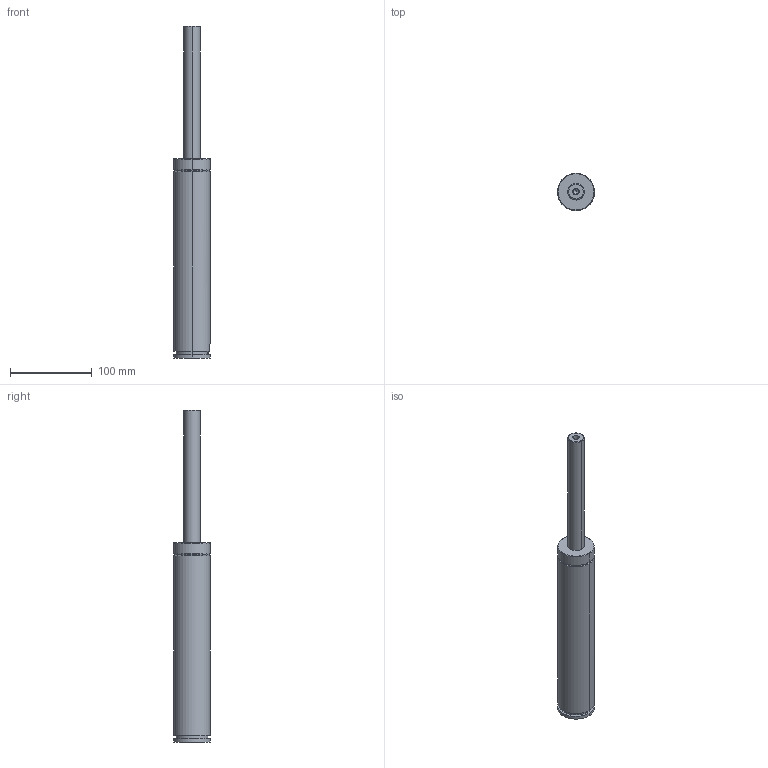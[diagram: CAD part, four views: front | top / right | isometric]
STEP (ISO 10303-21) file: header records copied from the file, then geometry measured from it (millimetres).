
FILE_DESCRIPTION(('CATIA V5 STEP Exchange'),'2;1');
FILE_NAME('W:\CATALOGO GENERAL 2018\FICHEROS CAD\004-TPS\TPS 500.2\TPS 500x160.2.stp','2017-10-31T14:34:21+00:00',('none'),('none'),'CATIA Version 5 Release 17 (IN-10)','CATIA V5 STEP AP203','none');
FILE_SCHEMA(('CONFIG_CONTROL_DESIGN'));
Length unit declared in the file: millimetre
Products named in the file (1): TPS 500x160.2
Bounding box: 45 x 45 x 405 mm (x, y, z)
Volume: 382722.3 mm3; surface area: 61382.1 mm2
Topology: 3 solids, 3 shells, 63 faces, 149 edges, 98 vertices
Faces by surface type: cylinder 29, plane 22, torus 6, cone 6
Entity records: 2239 total; most frequent: CARTESIAN_POINT 817, ORIENTED_EDGE 294, DIRECTION 239, EDGE_CURVE 147, AXIS2_PLACEMENT_3D 121, VERTEX_POINT 98, EDGE_LOOP 71, ADVANCED_FACE 63
